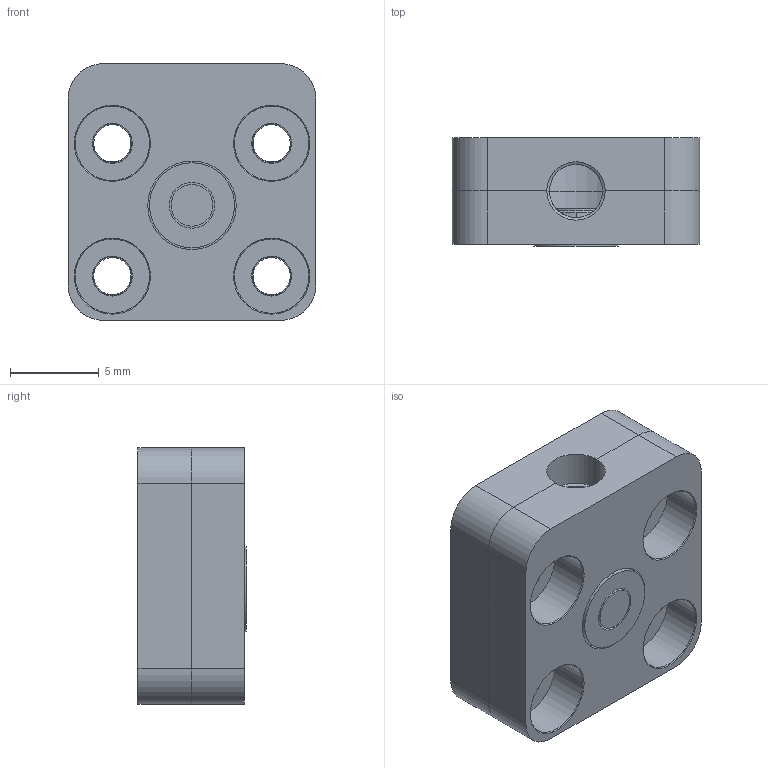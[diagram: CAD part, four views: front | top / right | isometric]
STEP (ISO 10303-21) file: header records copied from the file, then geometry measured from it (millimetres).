
FILE_DESCRIPTION (( 'STEP AP214' ), '1' );
FILE_NAME ('P-100.STEP', '2024-06-03T06:46:01', ( '' ), ( '' ), 'SwSTEP 2.0', 'SolidWorks 2023', '' );
FILE_SCHEMA (( 'AUTOMOTIVE_DESIGN' ));
Length unit declared in the file: millimetre
Products named in the file (10): P-100粘接; cross recessed ctsk head screws type b gb_GB_CROSS_SCREWS_TYPE136 M1.6X3-N; P100-Sd; P100-Cer1; P100-KV1; P100-Su; P-100; P100-KV2; P100-Cer2; 铜盖-100
Assembly tree (11 placements, depth 3):
  P-100
    P-100粘接
      P100-KV1
      P100-KV2
      P100-Cer1
      P100-Cer2
    P100-Sd
    P100-Su
    cross recessed ctsk head screws type b gb_GB_CROSS_SCREWS_TYPE136 M1.6X3-N  x3
    铜盖-100
Bounding box: 14 x 6.1 x 14.5 mm (x, y, z)
Volume: 839.6 mm3; surface area: 1672.1 mm2
Topology: 10 solids, 10 shells, 249 faces, 592 edges, 371 vertices
Faces by surface type: cylinder 107, plane 78, cone 64
Entity records: 6000 total; most frequent: DIRECTION 1096, CARTESIAN_POINT 993, ORIENTED_EDGE 900, EDGE_CURVE 450, AXIS2_PLACEMENT_3D 440, VERTEX_POINT 283, EDGE_LOOP 239, CIRCLE 230
